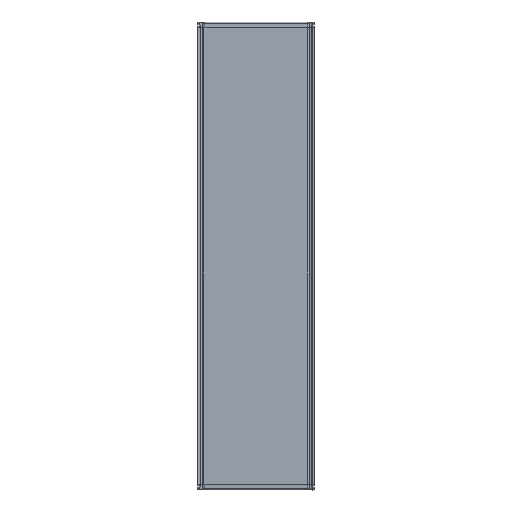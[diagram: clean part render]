
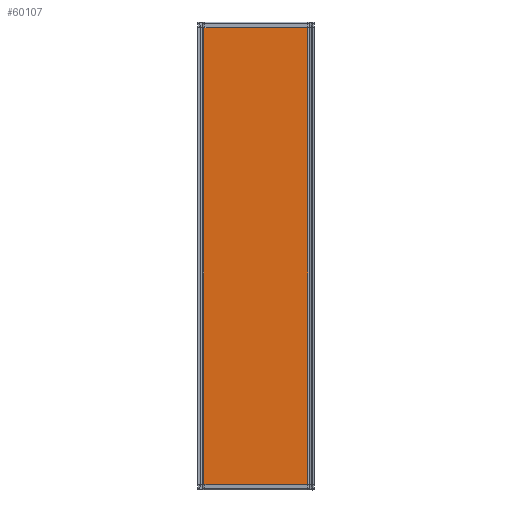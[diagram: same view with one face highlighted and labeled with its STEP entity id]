
A CAD part, top view. The second image highlights one B-rep face of the part: STEP entity #60107.
In plain terms, the highlighted planar face has unit normal (0, 0, 1).
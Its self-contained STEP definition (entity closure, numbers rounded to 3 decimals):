
#59748 = EDGE_CURVE('',#59749,#59751,#59753,.T.);
#59749 = VERTEX_POINT('',#59750);
#59750 = CARTESIAN_POINT('',(200.,-877.972,51.));
#59751 = VERTEX_POINT('',#59752);
#59752 = CARTESIAN_POINT('',(200.,877.972,51.));
#59753 = LINE('',#59754,#59755);
#59754 = CARTESIAN_POINT('',(200.,-877.972,51.));
#59755 = VECTOR('',#59756,1.);
#59756 = DIRECTION('',(0.,1.,0.));
#59842 = EDGE_CURVE('',#59843,#59751,#59845,.T.);
#59843 = VERTEX_POINT('',#59844);
#59844 = CARTESIAN_POINT('',(-200.,877.972,51.));
#59845 = LINE('',#59846,#59847);
#59846 = CARTESIAN_POINT('',(-200.,877.972,51.));
#59847 = VECTOR('',#59848,1.);
#59848 = DIRECTION('',(1.,0.,0.));
#60088 = VERTEX_POINT('',#60089);
#60089 = CARTESIAN_POINT('',(-200.,-877.972,51.));
#60096 = EDGE_CURVE('',#60088,#59843,#60097,.T.);
#60097 = LINE('',#60098,#60099);
#60098 = CARTESIAN_POINT('',(-200.,-877.972,51.));
#60099 = VECTOR('',#60100,1.);
#60100 = DIRECTION('',(0.,1.,0.));
#60107 = ADVANCED_FACE('',(#60108),#60119,.T.);
#60108 = FACE_BOUND('',#60109,.F.);
#60109 = EDGE_LOOP('',(#60110,#60111,#60112,#60118));
#60110 = ORIENTED_EDGE('',*,*,#59842,.T.);
#60111 = ORIENTED_EDGE('',*,*,#59748,.F.);
#60112 = ORIENTED_EDGE('',*,*,#60113,.T.);
#60113 = EDGE_CURVE('',#59749,#60088,#60114,.T.);
#60114 = LINE('',#60115,#60116);
#60115 = CARTESIAN_POINT('',(200.,-877.972,51.));
#60116 = VECTOR('',#60117,1.);
#60117 = DIRECTION('',(-1.,0.,0.));
#60118 = ORIENTED_EDGE('',*,*,#60096,.T.);
#60119 = PLANE('',#60120);
#60120 = AXIS2_PLACEMENT_3D('',#60121,#60122,#60123);
#60121 = CARTESIAN_POINT('',(-200.,-879.25,51.));
#60122 = DIRECTION('',(0.,0.,1.));
#60123 = DIRECTION('',(1.,0.,-0.));
